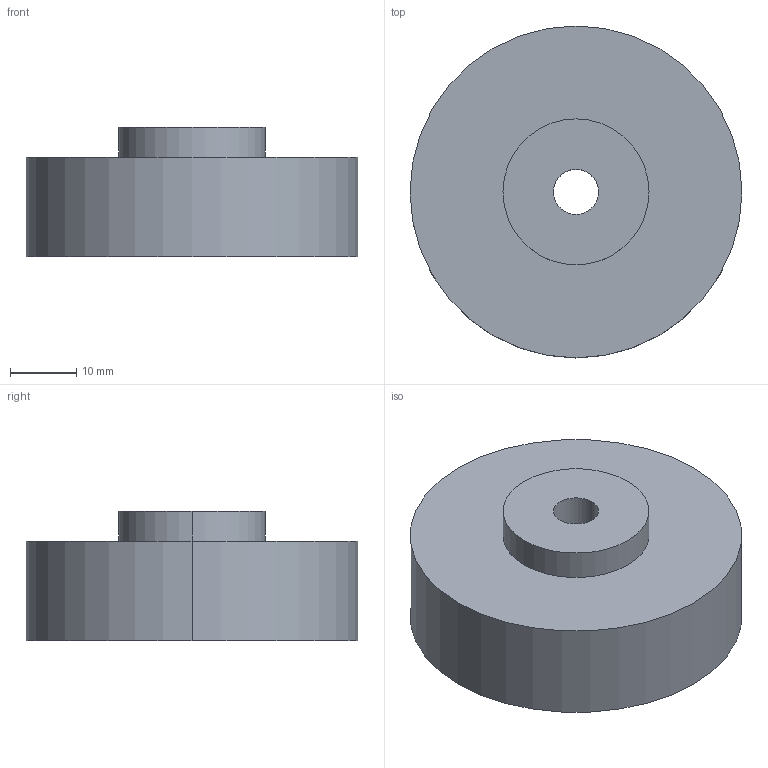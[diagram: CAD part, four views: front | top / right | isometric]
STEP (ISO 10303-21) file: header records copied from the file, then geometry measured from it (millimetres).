
FILE_DESCRIPTION (( 'STEP AP214' ), '1' );
FILE_NAME ('Aufnahme Messrad.STEP', '2016-12-28T08:51:53', ( '' ), ( '' ), 'SwSTEP 2.0', 'SolidWorks 2016', '' );
FILE_SCHEMA (( 'AUTOMOTIVE_DESIGN' ));
Length unit declared in the file: millimetre
Products named in the file (1): Aufnahme Messrad
Bounding box: 50 x 50 x 19.5 mm (x, y, z)
Volume: 28142.6 mm3; surface area: 7227.2 mm2
Topology: 1 solids, 1 shells, 12 faces, 24 edges, 16 vertices
Faces by surface type: cylinder 8, plane 4
Entity records: 384 total; most frequent: DIRECTION 66, CARTESIAN_POINT 53, ORIENTED_EDGE 48, AXIS2_PLACEMENT_3D 29, EDGE_CURVE 24, EDGE_LOOP 16, CIRCLE 16, VERTEX_POINT 16
